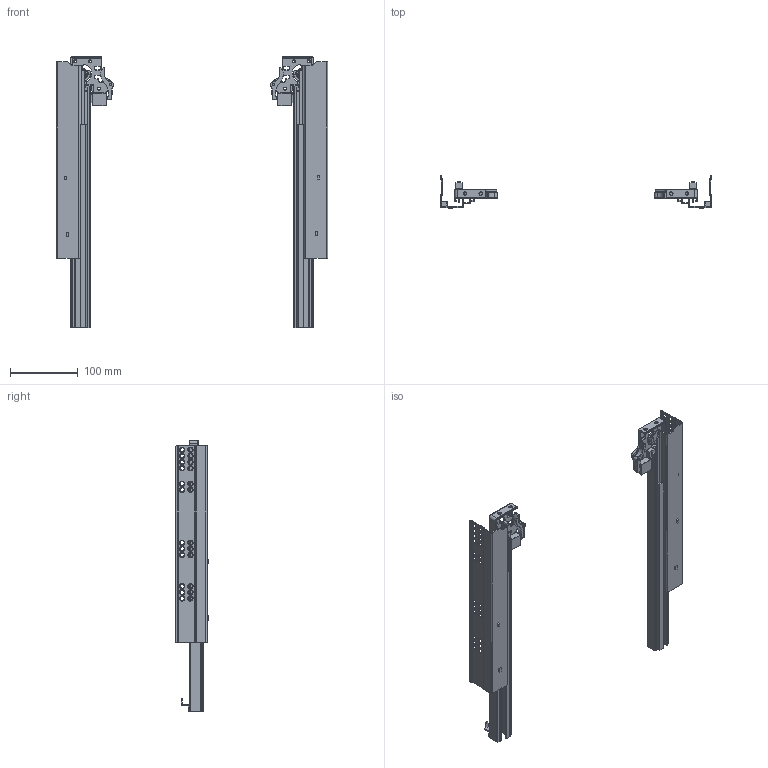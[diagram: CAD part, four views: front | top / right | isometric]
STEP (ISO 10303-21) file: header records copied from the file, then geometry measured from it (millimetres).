
FILE_DESCRIPTION(/* description */ (''),/* implementation_level */ '2;1');
FILE_NAME(/* name */ 'D:\$Workingspace\Designs\Katalog\Cadsoft\GTV Prowadnice\Prowadnice GTV_bryły 3D\PB-0FPO-400.stp',/* time_stamp */ '2016-11-21T11:57:31+01:00',/* author */ ('tomaszw'),/* organization */ (''),/* preprocessor_version */ 'ST-DEVELOPER v16.1',/* originating_system */ 'Autodesk Inventor 2016',/* authorisation */ '');
FILE_SCHEMA (('AUTOMOTIVE_DESIGN { 1 0 10303 214 3 1 1 }'));
Length unit declared in the file: millimetre
Products named in the file (9): PB-0FPO-CL-400; PB-0FPO-CR-400; PB-0FPO-DL-400; PB-0FPO-DR-400; PB-0FPO-DWL-400; PB-0FPO-DWR-400; PB-0FPO-SL; PB-0FPO-SR; PB-0FPO
Assembly tree (8 placements, depth 2):
  PB-0FPO
    PB-0FPO-CL-400
    PB-0FPO-CR-400
    PB-0FPO-DL-400
    PB-0FPO-DR-400
    PB-0FPO-DWL-400
    PB-0FPO-DWR-400
    PB-0FPO-SL
    PB-0FPO-SR
Bounding box: 400 x 48.8 x 400 mm (x, y, z)
Volume: 257360.2 mm3; surface area: 312511.2 mm2
Topology: 16 solids, 16 shells, 1882 faces, 4350 edges, 2506 vertices
Faces by surface type: cylinder 794, plane 440, torus 366, sphere 198, cone 48, bspline 36
Full cylindrical faces by diameter (mm): 3 x2, 4 x6, 4.5 x6, 5 x2, 6 x48, 7.889 x2
Entity records: 56313 total; most frequent: CARTESIAN_POINT 11143, DIRECTION 9976, ORIENTED_EDGE 8296, EDGE_CURVE 4148, AXIS2_PLACEMENT_3D 4033, VERTEX_POINT 2452, EDGE_LOOP 2180, CIRCLE 2158
